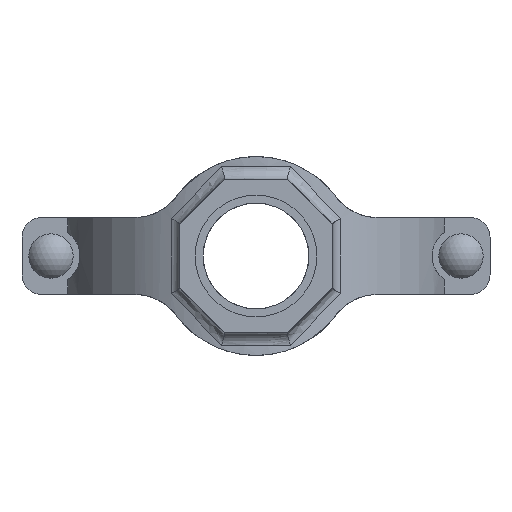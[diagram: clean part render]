
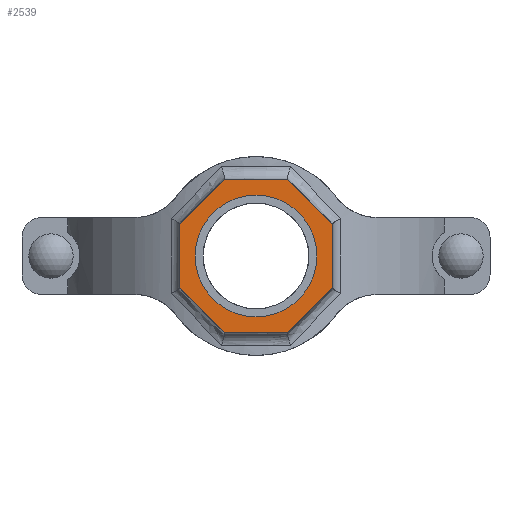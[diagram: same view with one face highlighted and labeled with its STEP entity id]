
A CAD part, front view. The second image highlights one B-rep face of the part: STEP entity #2539.
In plain terms, the highlighted planar face has unit normal (0, -1, 0) as drawn and (0, 1, 0) by its records, which use the part's own axes.
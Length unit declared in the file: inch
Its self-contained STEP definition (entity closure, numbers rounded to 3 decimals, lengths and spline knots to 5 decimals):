
#186=FACE_BOUND('',#459,.T.);
#307=FACE_OUTER_BOUND('',#458,.T.);
#458=EDGE_LOOP('',(#2138,#2139,#2140,#2141,#2142,#2143,#2144,#2145));
#459=EDGE_LOOP('',(#2146));
#594=LINE('',#4685,#780);
#597=LINE('',#4690,#783);
#599=LINE('',#4694,#785);
#601=LINE('',#4698,#787);
#641=LINE('',#5163,#827);
#643=LINE('',#5167,#829);
#645=LINE('',#5171,#831);
#647=LINE('',#5174,#833);
#780=VECTOR('',#3278,0.3937);
#783=VECTOR('',#3283,0.3937);
#785=VECTOR('',#3287,0.3937);
#787=VECTOR('',#3291,0.3937);
#827=VECTOR('',#3427,0.3937);
#829=VECTOR('',#3431,0.3937);
#831=VECTOR('',#3435,0.3937);
#833=VECTOR('',#3439,0.3937);
#919=CIRCLE('',#2802,1.1875);
#1097=VERTEX_POINT('',#4682);
#1098=VERTEX_POINT('',#4684);
#1099=VERTEX_POINT('',#4688);
#1100=VERTEX_POINT('',#4692);
#1101=VERTEX_POINT('',#4696);
#1136=VERTEX_POINT('',#5000);
#1160=VERTEX_POINT('',#5162);
#1161=VERTEX_POINT('',#5166);
#1162=VERTEX_POINT('',#5170);
#1408=EDGE_CURVE('',#1098,#1097,#594,.T.);
#1411=EDGE_CURVE('',#1097,#1099,#597,.T.);
#1413=EDGE_CURVE('',#1099,#1100,#599,.T.);
#1415=EDGE_CURVE('',#1100,#1101,#601,.T.);
#1461=EDGE_CURVE('',#1136,#1136,#919,.T.);
#1495=EDGE_CURVE('',#1160,#1098,#641,.T.);
#1497=EDGE_CURVE('',#1161,#1160,#643,.T.);
#1499=EDGE_CURVE('',#1162,#1161,#645,.T.);
#1501=EDGE_CURVE('',#1101,#1162,#647,.T.);
#2138=ORIENTED_EDGE('',*,*,#1501,.T.);
#2139=ORIENTED_EDGE('',*,*,#1499,.T.);
#2140=ORIENTED_EDGE('',*,*,#1497,.T.);
#2141=ORIENTED_EDGE('',*,*,#1495,.T.);
#2142=ORIENTED_EDGE('',*,*,#1408,.T.);
#2143=ORIENTED_EDGE('',*,*,#1411,.T.);
#2144=ORIENTED_EDGE('',*,*,#1413,.T.);
#2145=ORIENTED_EDGE('',*,*,#1415,.T.);
#2146=ORIENTED_EDGE('',*,*,#1461,.T.);
#2280=PLANE('',#2825);
#2539=ADVANCED_FACE('',(#307,#186),#2280,.T.);
#2802=AXIS2_PLACEMENT_3D('',#5001,#3369,#3370);
#2825=AXIS2_PLACEMENT_3D('',#5175,#3440,#3441);
#3278=DIRECTION('',(0.,0.,1.));
#3283=DIRECTION('',(0.707,0.,0.707));
#3287=DIRECTION('',(1.,0.,0.));
#3291=DIRECTION('',(0.707,0.,-0.707));
#3369=DIRECTION('center_axis',(0.,-1.,0.));
#3370=DIRECTION('ref_axis',(-1.,0.,0.));
#3427=DIRECTION('',(-0.707,0.,0.707));
#3431=DIRECTION('',(-1.,0.,0.));
#3435=DIRECTION('',(-0.707,0.,-0.707));
#3439=DIRECTION('',(0.,0.,-1.));
#3440=DIRECTION('center_axis',(0.,1.,0.));
#3441=DIRECTION('ref_axis',(0.,0.,1.));
#4682=CARTESIAN_POINT('',(-1.5,5.13,0.62132));
#4684=CARTESIAN_POINT('',(-1.5,5.13,-0.62132));
#4685=CARTESIAN_POINT('',(-1.5,5.13,0.62132));
#4688=CARTESIAN_POINT('',(-0.62132,5.13,1.5));
#4690=CARTESIAN_POINT('',(-0.62132,5.13,1.5));
#4692=CARTESIAN_POINT('',(0.62132,5.13,1.5));
#4694=CARTESIAN_POINT('',(0.62132,5.13,1.5));
#4696=CARTESIAN_POINT('',(1.5,5.13,0.62132));
#4698=CARTESIAN_POINT('',(1.5,5.13,0.62132));
#5000=CARTESIAN_POINT('',(1.1875,5.13,0.));
#5001=CARTESIAN_POINT('Origin',(0.,5.13,0.));
#5162=CARTESIAN_POINT('',(-0.62132,5.13,-1.5));
#5163=CARTESIAN_POINT('',(-1.5,5.13,-0.62132));
#5166=CARTESIAN_POINT('',(0.62132,5.13,-1.5));
#5167=CARTESIAN_POINT('',(-0.62132,5.13,-1.5));
#5170=CARTESIAN_POINT('',(1.5,5.13,-0.62132));
#5171=CARTESIAN_POINT('',(0.62132,5.13,-1.5));
#5174=CARTESIAN_POINT('',(1.5,5.13,-0.62132));
#5175=CARTESIAN_POINT('Origin',(0.,5.13,0.));
